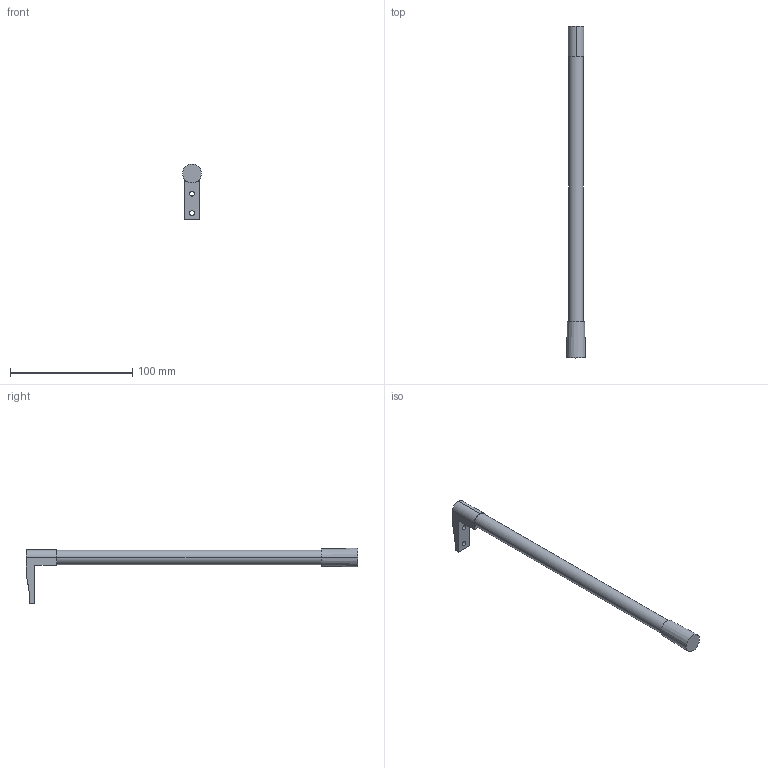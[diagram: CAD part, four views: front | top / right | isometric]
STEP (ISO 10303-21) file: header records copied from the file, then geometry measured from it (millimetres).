
FILE_DESCRIPTION (( 'STEP AP214' ), '1' );
FILE_NAME ('IMOS_Anschraubreling_Set_NL300.step', '2010-10-07T16:15:20', ( 'Grass' ), ( '' ), 'SwSTEP 2.0', 'SolidWorks 2010', '' );
FILE_SCHEMA (( 'AUTOMOTIVE_DESIGN' ));
Length unit declared in the file: millimetre
Products named in the file (1): IMOS_Anschraubreling_Set_NL300
Bounding box: 15.5 x 271.9 x 45.75 mm (x, y, z)
Volume: 35612.1 mm3; surface area: 12439.2 mm2
Topology: 1 solids, 1 shells, 24 faces, 57 edges, 38 vertices
Faces by surface type: plane 12, cylinder 10, cone 2
Entity records: 745 total; most frequent: DIRECTION 127, CARTESIAN_POINT 126, ORIENTED_EDGE 114, EDGE_CURVE 57, AXIS2_PLACEMENT_3D 47, VERTEX_POINT 38, VECTOR 33, LINE 33
